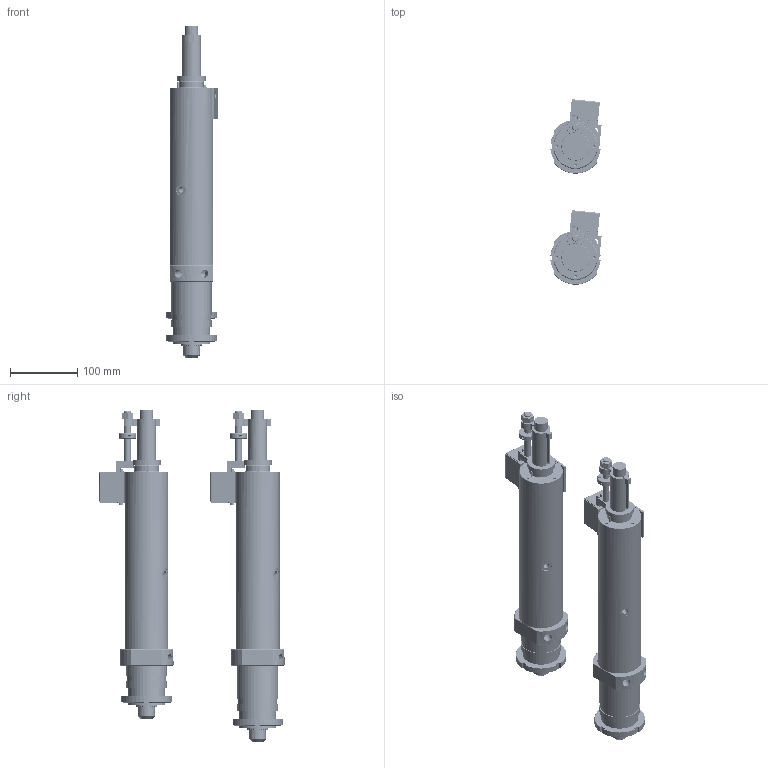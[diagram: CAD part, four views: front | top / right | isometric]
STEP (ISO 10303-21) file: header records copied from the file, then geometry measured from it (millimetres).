
FILE_DESCRIPTION (( 'STEP AP203' ), '1' );
FILE_NAME ('BE 335-3313 and 3326-33210 with limit impulsers.STEP', '2009-07-07T09:54:36', ( 'HP' ), ( '' ), 'SwSTEP 2.0', 'SolidWorks 2008', '' );
FILE_SCHEMA (( 'CONFIG_CONTROL_DESIGN' ));
Length unit declared in the file: millimetre
Products named in the file (28): spindel-335-3313; spindel-3326-33210; hus-3326-33210; Screw-MC6S-M3x25-8.8-Bufab; 40-4002-0102; Screw-MC6S-M4x22H-8.8-Bufab; 40-4008-06C; 40-4008-0302a; 40-4008-04b; 041J004002 keychuck 0,8-10mm; BE 335-3313 and 3326-33210 with limit impulsers; BE335-3313; hus-335-3313; BE3326-33210; 413A192011; ställmutter; Givare BE33; 400749; 416A111024 (har flata _S_dndar); Washer-DIN-125-3,2-fzb-Bufab; 604A000012; 40-4002-0101A; SS-ISO 4762  (Normal g_S_dnga) M3 x 12; Screw-MF6S-10.9-M4x12H-Bufab; 40-4008-0301a; 40-4008-02a; 40-4008-05a; Hex Nut GradeC_ISO_Hexagon Nut ISO - 4034 - M10 - N
Assembly tree (37 placements, depth 4):
  BE 335-3313 and 3326-33210 with limit impulsers
    BE335-3313
      Givare BE33
        40-4002-0102  x2
        40-4008-06C
        Screw-MC6S-M4x22H-8.8-Bufab
        604A000012  x2
        40-4008-04b
        Screw-MC6S-M3x25-8.8-Bufab  x2
        Screw-MF6S-10.9-M4x12H-Bufab  x2
        40-4008-0302a
        40-4008-0301a
        40-4008-02a
        40-4008-05a
        SS-ISO 4762  (Normal g_S_dnga) M3 x 12  x2
        Hex Nut GradeC_ISO_Hexagon Nut ISO - 4034 - M10 - N
        400749
        40-4002-0101A
        Washer-DIN-125-3,2-fzb-Bufab  x2
        416A111024 (har flata _S_dndar)
      041J004002 keychuck 0,8-10mm
      ställmutter
      hus-335-3313
      413A192011
      spindel-335-3313
    BE3326-33210
      Givare BE33
        40-4002-0102  x2
        40-4008-06C
        Screw-MC6S-M4x22H-8.8-Bufab
        604A000012  x2
        40-4008-04b
        Screw-MC6S-M3x25-8.8-Bufab  x2
        Screw-MF6S-10.9-M4x12H-Bufab  x2
        40-4008-0302a
        40-4008-0301a
        40-4008-02a
        40-4008-05a
        SS-ISO 4762  (Normal g_S_dnga) M3 x 12  x2
        Hex Nut GradeC_ISO_Hexagon Nut ISO - 4034 - M10 - N
        400749
        40-4002-0101A
        Washer-DIN-125-3,2-fzb-Bufab  x2
        416A111024 (har flata _S_dndar)
      041J004002 keychuck 0,8-10mm
      spindel-3326-33210
      413A192011
      hus-3326-33210
      ställmutter
Bounding box: 76.14 x 275.09 x 493.4 mm (x, y, z)
Volume: 2614989.9 mm3; surface area: 457427.7 mm2
Topology: 56 solids, 56 shells, 3800 faces, 8398 edges, 4716 vertices
Faces by surface type: cylinder 1502, cone 1272, plane 890, bspline 112, sphere 16, torus 8
Entity records: 60165 total; most frequent: CARTESIAN_POINT 22622, DIRECTION 7443, ORIENTED_EDGE 6916, EDGE_CURVE 3458, AXIS2_PLACEMENT_3D 2798, VERTEX_POINT 2001, LINE 1847, VECTOR 1847
